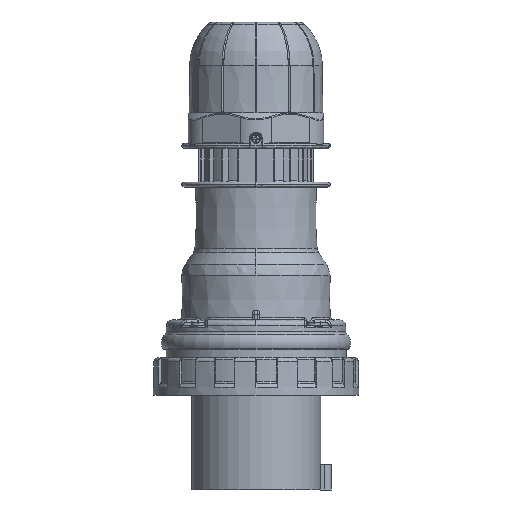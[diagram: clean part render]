
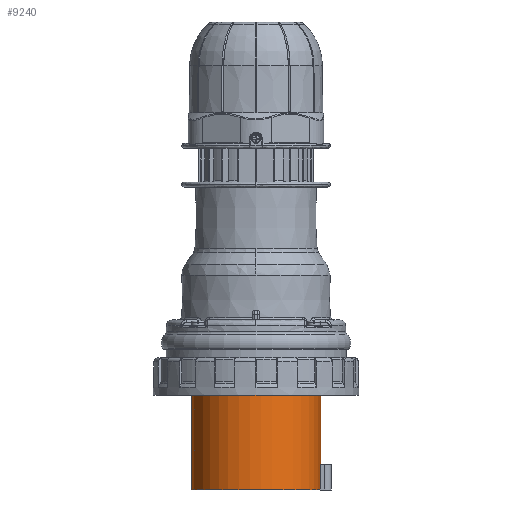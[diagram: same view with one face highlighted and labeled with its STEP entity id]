
A CAD part, left-side view. The second image highlights one B-rep face of the part: STEP entity #9240.
In plain terms, the highlighted cylindrical face has radius 40.5 mm (diameter 81 mm), a full revolution.
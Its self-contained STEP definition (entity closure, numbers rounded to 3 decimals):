
#2057=CYLINDRICAL_SURFACE('',#20861,40.5);
#2219=FACE_BOUND('',#10755,.T.);
#2220=FACE_BOUND('',#10756,.T.);
#2354=LINE('',#25992,#3248);
#2355=LINE('',#25997,#3249);
#2356=LINE('',#26003,#3250);
#2357=LINE('',#26007,#3251);
#3248=VECTOR('',#22274,1.);
#3249=VECTOR('',#22277,1.);
#3250=VECTOR('',#22282,1.);
#3251=VECTOR('',#22285,1.);
#9240=ADVANCED_FACE('',(#2219,#2220),#2057,.T.);
#10755=EDGE_LOOP('',(#11516,#11517,#11518,#11519));
#10756=EDGE_LOOP('',(#11520,#11521,#11522,#11523));
#11516=ORIENTED_EDGE('',*,*,#17393,.T.);
#11517=ORIENTED_EDGE('',*,*,#17394,.T.);
#11518=ORIENTED_EDGE('',*,*,#17395,.T.);
#11519=ORIENTED_EDGE('',*,*,#17396,.T.);
#11520=ORIENTED_EDGE('',*,*,#17397,.T.);
#11521=ORIENTED_EDGE('',*,*,#17398,.F.);
#11522=ORIENTED_EDGE('',*,*,#17399,.T.);
#11523=ORIENTED_EDGE('',*,*,#17400,.F.);
#15301=VERTEX_POINT('',#25993);
#15302=VERTEX_POINT('',#25994);
#15303=VERTEX_POINT('',#25996);
#15304=VERTEX_POINT('',#25998);
#15305=VERTEX_POINT('',#26001);
#15306=VERTEX_POINT('',#26002);
#15307=VERTEX_POINT('',#26004);
#15308=VERTEX_POINT('',#26006);
#17393=EDGE_CURVE('',#15301,#15302,#2354,.T.);
#17394=EDGE_CURVE('',#15302,#15303,#20073,.T.);
#17395=EDGE_CURVE('',#15303,#15304,#2355,.T.);
#17396=EDGE_CURVE('',#15304,#15301,#20074,.T.);
#17397=EDGE_CURVE('',#15305,#15306,#20075,.T.);
#17398=EDGE_CURVE('',#15307,#15306,#2356,.T.);
#17399=EDGE_CURVE('',#15307,#15308,#20076,.T.);
#17400=EDGE_CURVE('',#15305,#15308,#2357,.T.);
#20073=CIRCLE('',#20857,40.5);
#20074=CIRCLE('',#20858,40.5);
#20075=CIRCLE('',#20859,40.5);
#20076=CIRCLE('',#20860,40.5);
#20857=AXIS2_PLACEMENT_3D('',#25995,#22275,#22276);
#20858=AXIS2_PLACEMENT_3D('',#25999,#22278,#22279);
#20859=AXIS2_PLACEMENT_3D('',#26000,#22280,#22281);
#20860=AXIS2_PLACEMENT_3D('',#26005,#22283,#22284);
#20861=AXIS2_PLACEMENT_3D('',#26008,#22286,#22287);
#22274=DIRECTION('',(0.,0.,-1.));
#22275=DIRECTION('',(0.,0.,-1.));
#22276=DIRECTION('',(-1.,0.,0.));
#22277=DIRECTION('',(0.,0.,1.));
#22278=DIRECTION('',(0.,0.,-1.));
#22279=DIRECTION('',(-1.,0.,0.));
#22280=DIRECTION('',(0.,0.,1.));
#22281=DIRECTION('',(-1.,0.,0.));
#22282=DIRECTION('',(0.,0.,-1.));
#22283=DIRECTION('',(0.,0.,1.));
#22284=DIRECTION('',(-1.,0.,0.));
#22285=DIRECTION('',(0.,0.,1.));
#22286=DIRECTION('',(0.,0.,1.));
#22287=DIRECTION('',(1.,0.,0.));
#25992=CARTESIAN_POINT('',(-11.519,-24.656,-209.2));
#25993=CARTESIAN_POINT('',(-11.519,-24.656,-208.7));
#25994=CARTESIAN_POINT('',(-11.519,-24.656,-209.2));
#25995=CARTESIAN_POINT('',(-7.619,15.656,-209.2));
#25996=CARTESIAN_POINT('',(-3.719,-24.656,-209.2));
#25997=CARTESIAN_POINT('',(-3.719,-24.656,-209.2));
#25998=CARTESIAN_POINT('',(-3.719,-24.656,-208.7));
#25999=CARTESIAN_POINT('',(-7.619,15.656,-208.7));
#26000=CARTESIAN_POINT('',(-7.619,15.656,-279.7));
#26001=CARTESIAN_POINT('',(-3.719,-24.656,-279.7));
#26002=CARTESIAN_POINT('',(-11.519,-24.656,-279.7));
#26003=CARTESIAN_POINT('',(-11.519,-24.656,-263.45));
#26004=CARTESIAN_POINT('',(-11.519,-24.656,-263.45));
#26005=CARTESIAN_POINT('',(-7.619,15.656,-263.45));
#26006=CARTESIAN_POINT('',(-3.719,-24.656,-263.45));
#26007=CARTESIAN_POINT('',(-3.719,-24.656,-279.7));
#26008=CARTESIAN_POINT('',(-7.619,15.656,-279.7));
